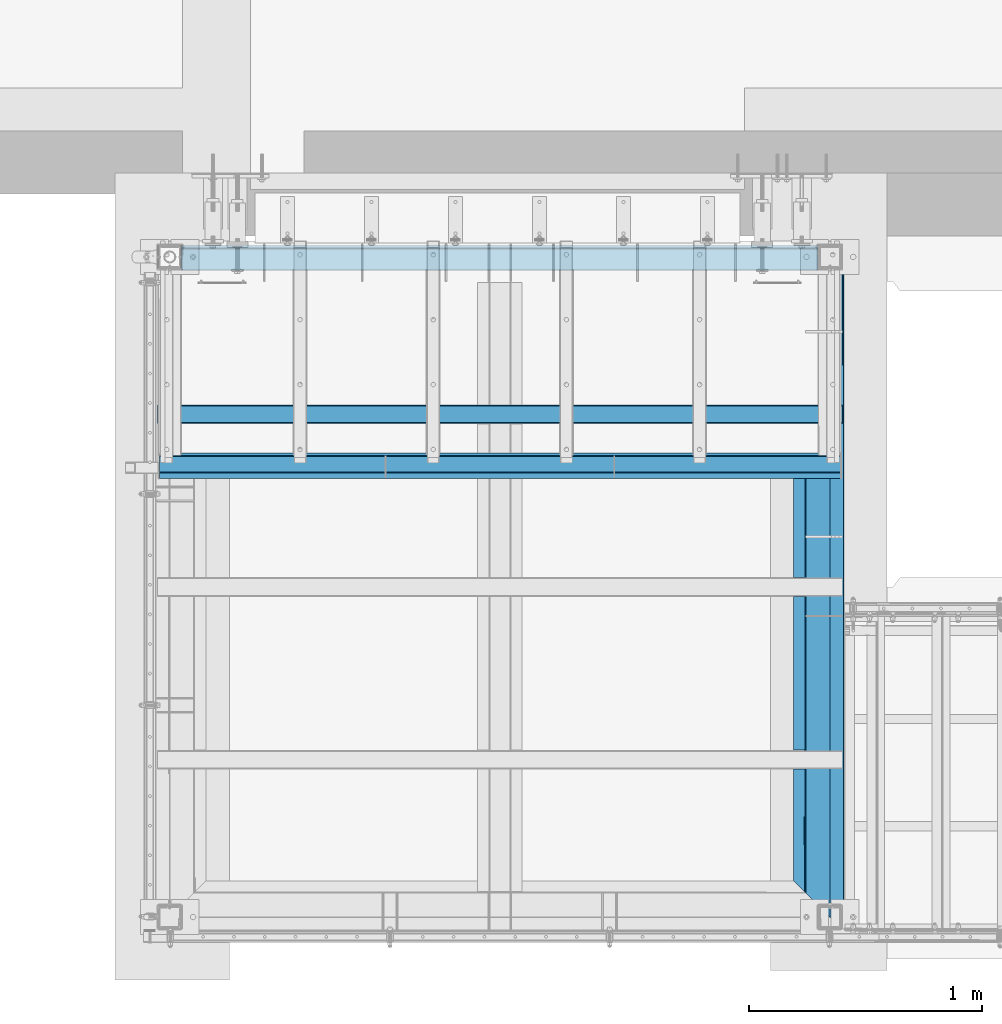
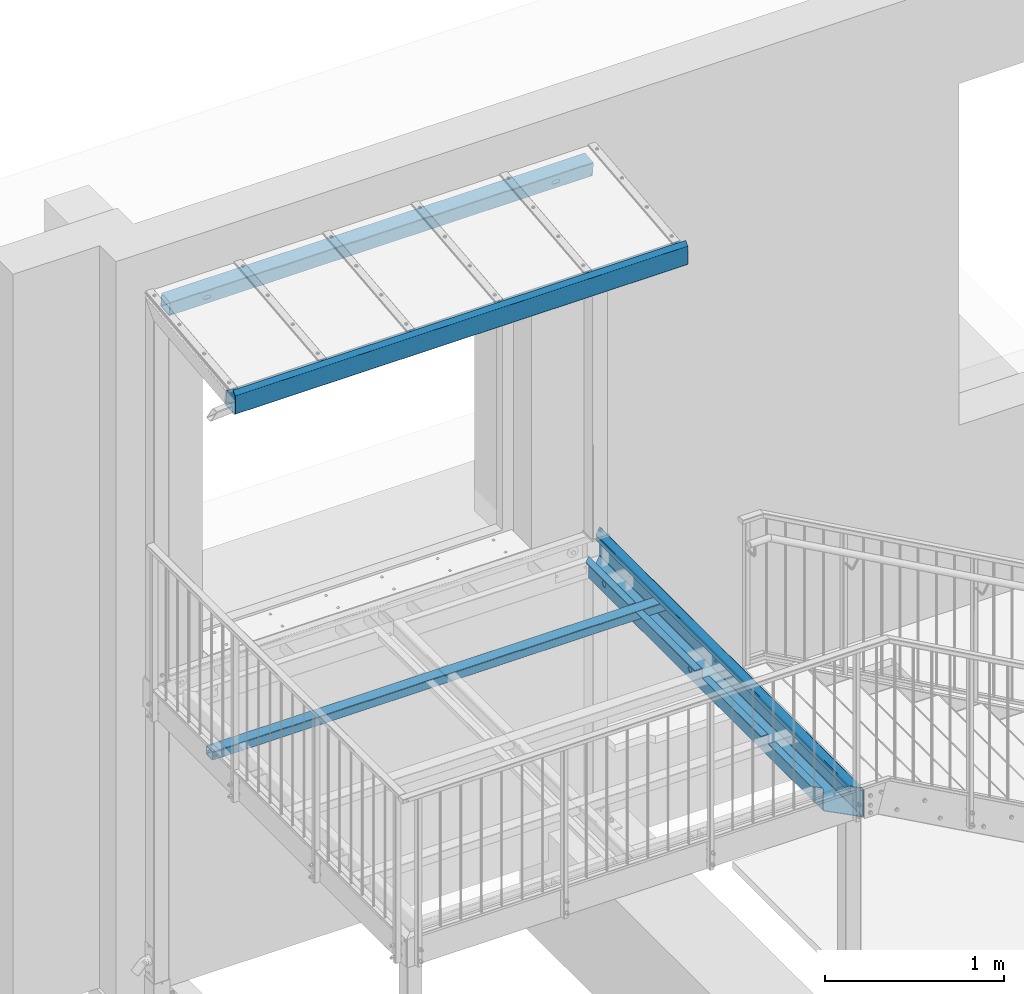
# One storey, part 11 of 116: 4 beams, 22 openings.
"""IFC2X3 building model written with IfcOpenShell, lengths in millimetres."""

from ifc_helpers import new_model, entity, si_unit, converted_unit, point, frame, frame_2d, origin, origin_with_axes, origin_2d, origin_2d_with_axis, place, context, project, spatial, polyline, circle_curve, line_curve, trimmed, segment, composite_curve, hollow_rectangle, circle, outline, extrude, clip, halfspace, material, element, save


model = new_model("IFC2X3")

# Units and contexts
model_context = context("Model", 3, precision=1e-09, world=origin_with_axes())
ifc_project = project(units=[si_unit("LENGTHUNIT", "METRE", prefix="MILLI"), si_unit("AREAUNIT", "SQUARE_METRE"), si_unit("VOLUMEUNIT", "CUBIC_METRE"), converted_unit("PLANEANGLEUNIT", "DEGREE", entity("IfcPlaneAngleMeasure", 0.01745329), si_unit("PLANEANGLEUNIT", "RADIAN"), dimensions=[0, 0, 0, 0, 0, 0, 0])], contexts=[model_context])

# Site, building, storey
site_placement = place(None, origin_with_axes())
site = spatial("IfcSite", under=ifc_project, at=site_placement, Name="Site", CompositionType="ELEMENT")
building_placement = place(site_placement, origin_with_axes())
building = spatial("IfcBuilding", under=site, at=building_placement, Name="Struktur 1", CompositionType="ELEMENT")
storey_placement = place(building_placement, origin_with_axes())
storey = spatial("IfcBuildingStorey", under=building, at=storey_placement, Name="Default Storey", CompositionType="ELEMENT", Elevation=0.0)

# Beam, openings
ifc_material_1 = material(Name="S235JR")
beam_1_placement = place(None, frame((58117.049134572, 11957.453781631, 2538.205773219), z_axis=(1.0, 0.0, 0.0), x_axis=(0.0, -0.994521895, -0.104528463)))
beam_1 = element("IfcBeam", 1, at=beam_1_placement, inside=storey, material=ifc_material_1, Name="-", ObjectType="-", context=model_context, shape_type="SweptSolid", body=[
    extrude(hollow_rectangle(XDim=100.0, YDim=100.0, WallThickness=4.0, InnerFilletRadius=4.0, OuterFilletRadius=8.0, at=origin_2d()), origin(), (0.0, 0.0, -1.0), 2730.0),
])
opening_1_placement = place(beam_1_placement, frame((45.5, 50.0, 0.0), z_axis=(1.0, 0.0, 0.0), x_axis=(0.0, 0.0, 1.0)))
element("IfcOpeningElement", 2, at=opening_1_placement, cuts=beam_1, ObjectType="Opening", context=model_context, shape_type="SweptSolid", body=[
    extrude(circle(Radius=6.001, at=frame_2d((-10.0, 15.0), x_axis=(1.0, 0.0))), origin(), (0.0, 0.0, 1.0), 5.0),
])
opening_2_placement = place(beam_1_placement, frame((-45.5, -50.0, 0.0), z_axis=(-1.0, 0.0, 0.0), x_axis=(0.0, 0.0, 1.0)))
element("IfcOpeningElement", 3, at=opening_2_placement, cuts=beam_1, ObjectType="Opening", context=model_context, shape_type="SweptSolid", body=[
    extrude(circle(Radius=6.001, at=frame_2d((-10.0, 15.0), x_axis=(1.0, 0.0))), origin(), (0.0, 0.0, 1.0), 5.0),
])
opening_3_placement = place(beam_1_placement, frame((45.5, 35.0, -2713.999), z_axis=(-1.0, 0.0, 0.0), x_axis=(0.0, -1.0, 0.0)))
element("IfcOpeningElement", 4, at=opening_3_placement, cuts=beam_1, ObjectType="Opening", context=model_context, shape_type="SweptSolid", body=[
    extrude(circle(Radius=6.001, at=frame_2d((0.0, -6.001), x_axis=(1.0, 0.0))), origin(), (0.0, 0.0, -1.0), 5.0),
])
opening_4_placement = place(beam_1_placement, frame((-45.5, -35.0, -2713.999), z_axis=(1.0, 0.0, 0.0), x_axis=(0.0, 1.0, 0.0)))
element("IfcOpeningElement", 5, at=opening_4_placement, cuts=beam_1, ObjectType="Opening", context=model_context, shape_type="SweptSolid", body=[
    extrude(circle(Radius=6.001, at=frame_2d((0.0, -6.001), x_axis=(1.0, 0.0))), origin(), (0.0, 0.0, -1.0), 5.0),
])
opening_5_placement = place(beam_1_placement, frame((-50.5, 0.0, -2490.0), z_axis=(1.0, 0.0, 0.0), x_axis=(0.0, 0.0, 1.0)))
element("IfcOpeningElement", 6, at=opening_5_placement, cuts=beam_1, ObjectType="Opening", context=model_context, shape_type="SweptSolid", body=[
    extrude(outline(composite_curve([segment(trimmed(line_curve((-12.5, -12.501), (1.0, 0.0), 25.0), [point((-12.5, -12.501))], [point((12.5, -12.501))], True, "CARTESIAN"), True, "CONTINUOUS"), segment(trimmed(circle_curve(frame_2d((12.5, 0.0), x_axis=(1.0, 0.0)), 12.501), [point((12.5, -12.501))], [point((12.5, 12.501))], True, "CARTESIAN"), True, "CONTINUOUS"), segment(trimmed(line_curve((12.5, 12.501), (-1.0, 0.0), 25.0), [point((12.5, 12.501))], [point((-12.5, 12.501))], True, "CARTESIAN"), True, "CONTINUOUS"), segment(trimmed(circle_curve(frame_2d((-12.5, 0.0), x_axis=(1.0, 0.0)), 12.501), [point((-12.5, 12.501))], [point((-12.5, -12.501))], True, "CARTESIAN"), True, "CONTINUOUS")], self_intersect=False)), origin(), (0.0, 0.0, 1.0), 5.0),
])
opening_6_placement = place(beam_1_placement, frame((45.5, 0.0, -2490.0), z_axis=(1.0, 0.0, 0.0), x_axis=(0.0, 0.0, 1.0)))
element("IfcOpeningElement", 7, at=opening_6_placement, cuts=beam_1, ObjectType="Opening", context=model_context, shape_type="SweptSolid", body=[
    extrude(outline(composite_curve([segment(trimmed(line_curve((-12.5, -12.501), (1.0, 0.0), 25.0), [point((-12.5, -12.501))], [point((12.5, -12.501))], True, "CARTESIAN"), True, "CONTINUOUS"), segment(trimmed(circle_curve(frame_2d((12.5, 0.0), x_axis=(1.0, 0.0)), 12.501), [point((12.5, -12.501))], [point((12.5, 12.501))], True, "CARTESIAN"), True, "CONTINUOUS"), segment(trimmed(line_curve((12.5, 12.501), (-1.0, 0.0), 25.0), [point((12.5, 12.501))], [point((-12.5, 12.501))], True, "CARTESIAN"), True, "CONTINUOUS"), segment(trimmed(circle_curve(frame_2d((-12.5, 0.0), x_axis=(1.0, 0.0)), 12.501), [point((-12.5, 12.501))], [point((-12.5, -12.501))], True, "CARTESIAN"), True, "CONTINUOUS")], self_intersect=False)), origin(), (0.0, 0.0, 1.0), 5.0),
])
opening_7_placement = place(beam_1_placement, frame((45.5, 12.501, -227.5), z_axis=(-1.0, 0.0, 0.0), x_axis=(0.0, 0.0, -1.0)))
element("IfcOpeningElement", 8, at=opening_7_placement, cuts=beam_1, ObjectType="Opening", context=model_context, shape_type="SweptSolid", body=[
    extrude(outline(composite_curve([segment(trimmed(line_curve((0.0, 0.0), (1.0, 0.0), 25.0), [point((0.0, 0.0))], [point((25.0, 0.0))], True, "CARTESIAN"), True, "CONTINUOUS"), segment(trimmed(circle_curve(frame_2d((25.0, 12.501), x_axis=(1.0, 0.0)), 12.501), [point((25.0, 0.0))], [point((25.0, 25.002))], True, "CARTESIAN"), True, "CONTINUOUS"), segment(trimmed(line_curve((25.0, 25.002), (-1.0, 0.0), 25.0), [point((25.0, 25.002))], [point((0.0, 25.002))], True, "CARTESIAN"), True, "CONTINUOUS"), segment(trimmed(circle_curve(frame_2d((0.0, 12.501), x_axis=(1.0, 0.0)), 12.501), [point((0.0, 25.002))], [point((0.0, 0.0))], True, "CARTESIAN"), True, "CONTINUOUS")], self_intersect=False)), origin(), (0.0, 0.0, -1.0), 5.0),
])
opening_8_placement = place(beam_1_placement, frame((-50.5, 12.501, -227.5), z_axis=(-1.0, 0.0, 0.0), x_axis=(0.0, 0.0, -1.0)))
element("IfcOpeningElement", 9, at=opening_8_placement, cuts=beam_1, ObjectType="Opening", context=model_context, shape_type="SweptSolid", body=[
    extrude(outline(composite_curve([segment(trimmed(line_curve((0.0, 0.0), (1.0, 0.0), 25.0), [point((0.0, 0.0))], [point((25.0, 0.0))], True, "CARTESIAN"), True, "CONTINUOUS"), segment(trimmed(circle_curve(frame_2d((25.0, 12.501), x_axis=(1.0, 0.0)), 12.501), [point((25.0, 0.0))], [point((25.0, 25.002))], True, "CARTESIAN"), True, "CONTINUOUS"), segment(trimmed(line_curve((25.0, 25.002), (-1.0, 0.0), 25.0), [point((25.0, 25.002))], [point((0.0, 25.002))], True, "CARTESIAN"), True, "CONTINUOUS"), segment(trimmed(circle_curve(frame_2d((0.0, 12.501), x_axis=(1.0, 0.0)), 12.501), [point((0.0, 25.002))], [point((0.0, 0.0))], True, "CARTESIAN"), True, "CONTINUOUS")], self_intersect=False)), origin(), (0.0, 0.0, -1.0), 5.0),
])

# Beam
beam_2_placement = place(None, frame((58212.049134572, 11067.858883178, 2467.582738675), z_axis=(1.0, 0.0, 0.0), x_axis=(0.0, 1.0, 0.0)))
element("IfcBeam", 10, at=beam_2_placement, inside=storey, material=ifc_material_1, Name="-", ObjectType="-", context=model_context, shape_type="SweptSolid", body=[
    extrude(outline(composite_curve([segment(trimmed(circle_curve(frame_2d((45.504487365, -68.374368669), x_axis=(-1.0, 0.0)), 4.000000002), [point((49.482574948, -67.956254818))], [point((45.504487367, -72.374368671))], False, "CARTESIAN"), True, "CONTINUOUS"), segment(trimmed(line_curve((45.504487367, -72.374368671), (-1.0, 0.0), 92.004487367), [point((45.504487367, -72.374368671))], [point((-46.5, -72.374368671))], True, "CARTESIAN"), True, "CONTINUOUS"), segment(trimmed(circle_curve(frame_2d((-46.499999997, -68.374368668), x_axis=(-1.0, 0.0)), 4.000000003), [point((-46.5, -72.374368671))], [point((-50.5, -68.374368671))], False, "CARTESIAN"), True, "CONTINUOUS"), segment(trimmed(line_curve((-50.5, -68.374368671), (0.0, 1.0), 117.272077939), [point((-50.5, -68.374368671))], [point((-50.5, 48.897709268))], True, "CARTESIAN"), True, "CONTINUOUS"), segment(trimmed(circle_curve(frame_2d((-46.499999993, 48.897709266), x_axis=(-1.0, 0.0)), 4.000000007), [point((-50.5, 48.897709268))], [point((-49.328427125, 51.726136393))], False, "CARTESIAN"), True, "CONTINUOUS"), segment(trimmed(line_curve((-49.328427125, 51.726136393), (0.707106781, 0.707106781), 31.272077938), [point((-49.328427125, 51.726136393))], [point((-27.215728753, 73.838834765))], True, "CARTESIAN"), True, "CONTINUOUS"), segment(trimmed(line_curve((-27.215728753, 73.838834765), (-0.707106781, 0.707106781), 4.999999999), [point((-27.215728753, 73.838834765))], [point((-30.751262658, 77.374368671))], True, "CARTESIAN"), True, "CONTINUOUS"), segment(trimmed(line_curve((-30.751262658, 77.374368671), (-0.707106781, -0.707106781), 31.272077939), [point((-30.751262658, 77.374368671))], [point((-52.863961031, 55.261670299))], True, "CARTESIAN"), True, "CONTINUOUS"), segment(trimmed(circle_curve(frame_2d((-46.499999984, 48.897709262), x_axis=(1.0, 0.0)), 9.000000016), [point((-52.863961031, 55.261670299))], [point((-55.5, 48.897709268))], True, "CARTESIAN"), True, "CONTINUOUS"), segment(trimmed(line_curve((-55.5, 48.897709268), (0.0, -1.0), 117.272077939), [point((-55.5, 48.897709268))], [point((-55.5, -68.374368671))], True, "CARTESIAN"), True, "CONTINUOUS"), segment(trimmed(circle_curve(frame_2d((-46.499999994, -68.374368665), x_axis=(1.0, 0.0)), 9.000000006), [point((-55.5, -68.374368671))], [point((-46.5, -77.374368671))], True, "CARTESIAN"), True, "CONTINUOUS"), segment(trimmed(line_curve((-46.5, -77.374368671), (1.0, 0.0), 92.004487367), [point((-46.5, -77.374368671))], [point((45.504487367, -77.374368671))], True, "CARTESIAN"), True, "CONTINUOUS"), segment(trimmed(circle_curve(frame_2d((45.504487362, -68.374368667), x_axis=(1.0, 0.0)), 9.000000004), [point((45.504487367, -77.374368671))], [point((54.455184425, -67.433612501))], True, "CARTESIAN"), True, "CONTINUOUS"), segment(trimmed(line_curve((54.455184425, -67.433612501), (-0.104528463, 0.994521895), 100.004487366), [point((54.455184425, -67.433612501))], [point((44.001869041, 32.02303982))], True, "CARTESIAN"), True, "CONTINUOUS"), segment(trimmed(line_curve((44.001869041, 32.02303982), (-0.994521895, -0.104528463), 5.0), [point((44.001869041, 32.02303982))], [point((39.029259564, 31.500397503))], True, "CARTESIAN"), True, "CONTINUOUS"), segment(trimmed(line_curve((39.029259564, 31.500397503), (0.104528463, -0.994521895), 100.004487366), [point((39.029259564, 31.500397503))], [point((49.482574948, -67.956254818))], True, "CARTESIAN"), True, "CONTINUOUS")], self_intersect=False)), origin(), (0.0, 0.0, -1.0), 2920.0),
])

# Beam, openings
beam_3_placement = place(None, frame((55283.549134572, 11287.358883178, -78.0), z_axis=(-1.0, 0.0, 0.0), x_axis=(0.0, 0.0, -1.0)))
beam_3 = element("IfcBeam", 11, at=beam_3_placement, inside=storey, material=ifc_material_1, Name="-", ObjectType="-", context=model_context, shape_type="SweptSolid", body=[
    extrude(hollow_rectangle(XDim=60.0, YDim=80.0, WallThickness=4.0, InnerFilletRadius=4.0, OuterFilletRadius=8.0, at=origin_2d()), origin(), (0.0, 0.0, -1.0), 2937.0),
])
opening_9_placement = place(beam_3_placement, frame((0.0, 35.5, 0.0), z_axis=(0.0, 1.0, 0.0), x_axis=(0.0, 0.0, -1.0)))
element("IfcOpeningElement", 12, at=opening_9_placement, cuts=beam_3, ObjectType="Opening", context=model_context, shape_type="SweptSolid", body=[
    extrude(circle(Radius=10.001, at=frame_2d((15.0, 0.0), x_axis=(1.0, 0.0))), origin(), (0.0, 0.0, 1.0), 5.0),
])
opening_10_placement = place(beam_3_placement, frame((0.0, -35.5, -4.999), z_axis=(0.0, 1.0, 0.0), x_axis=(-1.0, 0.0, 0.0)))
element("IfcOpeningElement", 13, at=opening_10_placement, cuts=beam_3, ObjectType="Opening", context=model_context, shape_type="SweptSolid", body=[
    extrude(circle(Radius=10.001, at=frame_2d((0.0, -10.001), x_axis=(1.0, 0.0))), origin(), (0.0, 0.0, -1.0), 5.0),
])
opening_11_placement = place(beam_3_placement, frame((0.0, -35.5, -2937.0), z_axis=(0.0, -1.0, 0.0), x_axis=(0.0, 0.0, 1.0)))
element("IfcOpeningElement", 14, at=opening_11_placement, cuts=beam_3, ObjectType="Opening", context=model_context, shape_type="SweptSolid", body=[
    extrude(circle(Radius=10.001, at=frame_2d((15.0, 0.0), x_axis=(1.0, 0.0))), origin(), (0.0, 0.0, 1.0), 5.0),
])
opening_12_placement = place(beam_3_placement, frame((0.0, 35.5, -2932.001), z_axis=(0.0, -1.0, 0.0), x_axis=(1.0, 0.0, 0.0)))
element("IfcOpeningElement", 15, at=opening_12_placement, cuts=beam_3, ObjectType="Opening", context=model_context, shape_type="SweptSolid", body=[
    extrude(circle(Radius=10.001, at=frame_2d((0.0, 10.001), x_axis=(1.0, 0.0))), origin(), (0.0, 0.0, -1.0), 5.0),
])

ifc_material_2 = material(Name="S355JR")
beam_4_placement = place(None, frame((58119.549134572, 12419.394884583, -105.0), z_axis=(0.0, 1.0, 0.0), x_axis=(-1.0, 0.0, 0.0)))
beam_4 = element("IfcBeam", 16, at=beam_4_placement, inside=storey, material=ifc_material_2, Name="-", ObjectType="-", context=model_context, shape_type="Clipping", body=[
    clip(clip(extrude(outline(composite_curve([segment(trimmed(line_curve((-47.5, 60.0), (0.0, 1.0), 31.0), [point((-47.5, 60.0))], [point((-47.5, 91.0))], True, "CARTESIAN"), True, "CONTINUOUS"), segment(trimmed(circle_curve(frame_2d((-56.500000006, 90.999999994), x_axis=(1.0, 0.0)), 9.000000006), [point((-47.5, 91.0))], [point((-56.5, 100.0))], True, "CARTESIAN"), True, "CONTINUOUS"), segment(trimmed(line_curve((-56.5, 100.0), (-1.0, 0.0), 42.0), [point((-56.5, 100.0))], [point((-98.5, 100.0))], True, "CARTESIAN"), True, "CONTINUOUS"), segment(trimmed(circle_curve(frame_2d((-98.499999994, 90.999999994), x_axis=(1.0, 0.0)), 9.000000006), [point((-98.5, 100.0))], [point((-107.5, 91.0))], True, "CARTESIAN"), True, "CONTINUOUS"), segment(trimmed(line_curve((-107.5, 91.0), (0.0, -1.0), 182.0), [point((-107.5, 91.0))], [point((-107.5, -91.0))], True, "CARTESIAN"), True, "CONTINUOUS"), segment(trimmed(circle_curve(frame_2d((-98.499999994, -90.999999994), x_axis=(1.0, 0.0)), 9.000000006), [point((-107.5, -91.0))], [point((-98.5, -100.0))], True, "CARTESIAN"), True, "CONTINUOUS"), segment(trimmed(line_curve((-98.5, -100.0), (1.0, 0.0), 152.0), [point((-98.5, -100.0))], [point((53.5, -100.0))], True, "CARTESIAN"), True, "CONTINUOUS"), segment(trimmed(circle_curve(frame_2d((53.499999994, -90.999999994), x_axis=(1.0, 0.0)), 9.000000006), [point((53.5, -100.0))], [point((62.5, -91.0))], True, "CARTESIAN"), True, "CONTINUOUS"), segment(trimmed(line_curve((62.5, -91.0), (0.0, 1.0), 139.0), [point((62.5, -91.0))], [point((62.5, 48.0))], True, "CARTESIAN"), True, "CONTINUOUS"), segment(trimmed(circle_curve(frame_2d((66.500000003, 47.999999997), x_axis=(-1.0, 0.0)), 4.000000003), [point((62.5, 48.0))], [point((66.5, 52.0))], False, "CARTESIAN"), True, "CONTINUOUS"), segment(trimmed(line_curve((66.5, 52.0), (1.0, 0.0), 41.0), [point((66.5, 52.0))], [point((107.5, 52.0))], True, "CARTESIAN"), True, "CONTINUOUS"), segment(trimmed(line_curve((107.5, 52.0), (0.0, 1.0), 5.0), [point((107.5, 52.0))], [point((107.5, 57.0))], True, "CARTESIAN"), True, "CONTINUOUS"), segment(trimmed(line_curve((107.5, 57.0), (-1.0, 0.0), 41.0), [point((107.5, 57.0))], [point((66.5, 57.0))], True, "CARTESIAN"), True, "CONTINUOUS"), segment(trimmed(circle_curve(frame_2d((66.500000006, 47.999999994), x_axis=(1.0, 0.0)), 9.000000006), [point((66.5, 57.0))], [point((57.5, 48.0))], True, "CARTESIAN"), True, "CONTINUOUS"), segment(trimmed(line_curve((57.5, 48.0), (0.0, -1.0), 139.0), [point((57.5, 48.0))], [point((57.5, -91.0))], True, "CARTESIAN"), True, "CONTINUOUS"), segment(trimmed(circle_curve(frame_2d((53.499999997, -90.999999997), x_axis=(-1.0, 0.0)), 4.000000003), [point((57.5, -91.0))], [point((53.5, -95.0))], False, "CARTESIAN"), True, "CONTINUOUS"), segment(trimmed(line_curve((53.5, -95.0), (-1.0, 0.0), 152.0), [point((53.5, -95.0))], [point((-98.5, -95.0))], True, "CARTESIAN"), True, "CONTINUOUS"), segment(trimmed(circle_curve(frame_2d((-98.499999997, -90.999999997), x_axis=(-1.0, 0.0)), 4.000000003), [point((-98.5, -95.0))], [point((-102.5, -91.0))], False, "CARTESIAN"), True, "CONTINUOUS"), segment(trimmed(line_curve((-102.5, -91.0), (0.0, 1.0), 182.0), [point((-102.5, -91.0))], [point((-102.5, 91.0))], True, "CARTESIAN"), True, "CONTINUOUS"), segment(trimmed(circle_curve(frame_2d((-98.499999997, 90.999999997), x_axis=(-1.0, 0.0)), 4.000000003), [point((-102.5, 91.0))], [point((-98.5, 95.0))], False, "CARTESIAN"), True, "CONTINUOUS"), segment(trimmed(line_curve((-98.5, 95.0), (1.0, 0.0), 42.0), [point((-98.5, 95.0))], [point((-56.5, 95.0))], True, "CARTESIAN"), True, "CONTINUOUS"), segment(trimmed(circle_curve(frame_2d((-56.500000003, 90.999999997), x_axis=(-1.0, 0.0)), 4.000000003), [point((-56.5, 95.0))], [point((-52.5, 91.0))], False, "CARTESIAN"), True, "CONTINUOUS"), segment(trimmed(line_curve((-52.5, 91.0), (0.0, -1.0), 31.0), [point((-52.5, 91.0))], [point((-52.5, 60.0))], True, "CARTESIAN"), True, "CONTINUOUS"), segment(trimmed(line_curve((-52.5, 60.0), (1.0, 0.0), 5.0), [point((-52.5, 60.0))], [point((-47.5, 60.0))], True, "CARTESIAN"), True, "CONTINUOUS")], self_intersect=False)), origin(), (0.0, 0.0, -1.0), 3744.072002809), halfspace(frame((35017.203301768, 105.0, -35521.740717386), z_axis=(-0.707106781, 0.0, -0.707106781), x_axis=(-0.707106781, 0.0, 0.707106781)), True)), halfspace(frame((24469.84441859, 105.0, 21230.309831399), z_axis=(-0.707106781, 0.0, 0.707106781), x_axis=(0.707106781, 0.0, 0.707106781)), True)),
])
opening_13_placement = place(beam_4_placement, frame((-123.084269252, -200.1, -402.035317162), z_axis=(0.0, -1.0, 0.0), x_axis=(1.0, 0.0, 0.0)))
element("IfcOpeningElement", 17, at=opening_13_placement, cuts=beam_4, ObjectType="Opening", context=model_context, shape_type="SweptSolid", body=[
    extrude(outline(polyline([(0.0, 0.0), (20.586683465, 0.0), (20.586683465, 16.715321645), (0.0, 16.715321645), (0.0, 0.0)])), origin(), (0.0, 0.0, -1.0), 400.2),
])
opening_14_placement = place(beam_4_placement, frame((-112.790927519, -200.1, -3350.394346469), z_axis=(0.0, 1.0, 0.0), x_axis=(1.0, 0.0, 0.0)))
element("IfcOpeningElement", 18, at=opening_14_placement, cuts=beam_4, ObjectType="Opening", context=model_context, shape_type="SweptSolid", body=[
    extrude(outline(polyline([(-10.293341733, -8.357660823), (10.293341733, -8.357660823), (10.293341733, 8.357660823), (-10.293341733, 8.357660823), (-10.293341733, -8.357660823)])), origin(), (0.0, 0.0, 1.0), 400.2),
])
opening_15_placement = place(beam_4_placement, frame((207.6, 0.999, -1831.035001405), z_axis=(1.0, 0.0, 0.0), x_axis=(0.0, -0.707106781, -0.707106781)))
element("IfcOpeningElement", 19, at=opening_15_placement, cuts=beam_4, ObjectType="Opening", context=model_context, shape_type="SweptSolid", body=[
    extrude(outline(composite_curve([segment(trimmed(circle_curve(frame_2d((3.535533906, 3.535533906), x_axis=(1.0, 0.0)), 5.0), [point((0.0, 0.0))], [point((7.071067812, 0.0))], True, "CARTESIAN"), True, "CONTINUOUS"), segment(trimmed(line_curve((7.071067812, 0.0), (0.707106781, 0.707106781), 72.002), [point((7.071067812, 0.0))], [point((57.984170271, 50.913102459))], True, "CARTESIAN"), True, "CONTINUOUS"), segment(trimmed(circle_curve(frame_2d((54.448636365, 54.448636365), x_axis=(1.0, 0.0)), 5.0), [point((57.984170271, 50.913102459))], [point((57.984170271, 57.984170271))], True, "CARTESIAN"), True, "CONTINUOUS"), segment(trimmed(line_curve((57.984170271, 57.984170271), (-0.707106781, 0.707106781), 64.909628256), [point((57.984170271, 57.984170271))], [point((12.086131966, 103.882208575))], True, "CARTESIAN"), True, "CONTINUOUS"), segment(trimmed(circle_curve(frame_2d((8.55059806, 100.346674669), x_axis=(1.0, 0.0)), 5.0), [point((12.086131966, 103.882208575))], [point((5.015064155, 103.882208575))], True, "CARTESIAN"), True, "CONTINUOUS"), segment(trimmed(line_curve((5.015064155, 103.882208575), (-0.707106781, -0.707106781), 72.002), [point((5.015064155, 103.882208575))], [point((-45.898038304, 52.969106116))], True, "CARTESIAN"), True, "CONTINUOUS"), segment(trimmed(circle_curve(frame_2d((-42.362504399, 49.43357221), x_axis=(1.0, 0.0)), 5.0), [point((-45.898038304, 52.969106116))], [point((-45.898038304, 45.898038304))], True, "CARTESIAN"), True, "CONTINUOUS"), segment(trimmed(line_curve((-45.898038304, 45.898038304), (0.707106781, -0.707106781), 64.909628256), [point((-45.898038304, 45.898038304))], [point((0.0, 0.0))], True, "CARTESIAN"), True, "CONTINUOUS")], self_intersect=False)), origin(), (0.0, 0.0, -1.0), 215.1),
])
opening_16_placement = place(beam_4_placement, frame((-102.0, 80.0, -3317.035685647), z_axis=(1.0, 0.0, 0.0), x_axis=(0.0, 1.0, 0.0)))
element("IfcOpeningElement", 20, at=opening_16_placement, cuts=beam_4, ObjectType="Opening", context=model_context, shape_type="SweptSolid", body=[
    extrude(circle(Radius=10.001, at=frame_2d((0.0, -10.001), x_axis=(1.0, 0.0))), origin(), (0.0, 0.0, -1.0), 6.0),
])
opening_17_placement = place(beam_4_placement, frame((-102.0, 100.0, -1217.036001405), z_axis=(-1.0, 0.0, 0.0), x_axis=(0.0, 0.0, 1.0)))
element("IfcOpeningElement", 21, at=opening_17_placement, cuts=beam_4, ObjectType="Opening", context=model_context, shape_type="SweptSolid", body=[
    extrude(circle(Radius=8.001, at=frame_2d((480.0, -133.0), x_axis=(1.0, 0.0))), origin(), (0.0, 0.0, 1.0), 6.0),
])
opening_18_placement = place(beam_4_placement, frame((-102.0, 100.0, -1217.036001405), z_axis=(-1.0, 0.0, 0.0), x_axis=(0.0, 0.0, 1.0)))
element("IfcOpeningElement", 22, at=opening_18_placement, cuts=beam_4, ObjectType="Opening", context=model_context, shape_type="SweptSolid", body=[
    extrude(circle(Radius=8.001, at=frame_2d((-480.0, -133.0), x_axis=(1.0, 0.0))), origin(), (0.0, 0.0, 1.0), 6.0),
])
opening_19_placement = place(beam_4_placement, frame((57.0, -33.0, -737.036001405), z_axis=(1.0, 0.0, 0.0), x_axis=(0.0, 0.0, -1.0)))
element("IfcOpeningElement", 23, at=opening_19_placement, cuts=beam_4, ObjectType="Opening", context=model_context, shape_type="SweptSolid", body=[
    extrude(circle(Radius=19.001, at=frame_2d((960.0, 0.0), x_axis=(1.0, 0.0))), origin(), (0.0, 0.0, 1.0), 6.0),
])
opening_20_placement = place(beam_4_placement, frame((57.0, -33.0, -737.036001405), z_axis=(1.0, 0.0, 0.0), x_axis=(0.0, 0.0, -1.0)))
element("IfcOpeningElement", 24, at=opening_20_placement, cuts=beam_4, ObjectType="Opening", context=model_context, shape_type="SweptSolid", body=[
    extrude(circle(Radius=19.001, at=origin_2d_with_axis()), origin(), (0.0, 0.0, 1.0), 6.0),
])
opening_21_placement = place(beam_4_placement, frame((207.6, 0.999, -1091.035001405), z_axis=(1.0, 0.0, 0.0), x_axis=(0.0, -0.707106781, -0.707106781)))
element("IfcOpeningElement", 25, at=opening_21_placement, cuts=beam_4, ObjectType="Opening", context=model_context, shape_type="SweptSolid", body=[
    extrude(outline(composite_curve([segment(trimmed(circle_curve(frame_2d((3.535533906, 3.535533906), x_axis=(1.0, 0.0)), 5.0), [point((0.0, 0.0))], [point((7.071067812, 0.0))], True, "CARTESIAN"), True, "CONTINUOUS"), segment(trimmed(line_curve((7.071067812, 0.0), (0.707106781, 0.707106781), 72.002), [point((7.071067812, 0.0))], [point((57.984170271, 50.913102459))], True, "CARTESIAN"), True, "CONTINUOUS"), segment(trimmed(circle_curve(frame_2d((54.448636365, 54.448636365), x_axis=(1.0, 0.0)), 5.0), [point((57.984170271, 50.913102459))], [point((57.984170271, 57.984170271))], True, "CARTESIAN"), True, "CONTINUOUS"), segment(trimmed(line_curve((57.984170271, 57.984170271), (-0.707106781, 0.707106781), 64.909628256), [point((57.984170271, 57.984170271))], [point((12.086131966, 103.882208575))], True, "CARTESIAN"), True, "CONTINUOUS"), segment(trimmed(circle_curve(frame_2d((8.55059806, 100.346674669), x_axis=(1.0, 0.0)), 5.0), [point((12.086131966, 103.882208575))], [point((5.015064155, 103.882208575))], True, "CARTESIAN"), True, "CONTINUOUS"), segment(trimmed(line_curve((5.015064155, 103.882208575), (-0.707106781, -0.707106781), 72.002), [point((5.015064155, 103.882208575))], [point((-45.898038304, 52.969106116))], True, "CARTESIAN"), True, "CONTINUOUS"), segment(trimmed(circle_curve(frame_2d((-42.362504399, 49.43357221), x_axis=(1.0, 0.0)), 5.0), [point((-45.898038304, 52.969106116))], [point((-45.898038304, 45.898038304))], True, "CARTESIAN"), True, "CONTINUOUS"), segment(trimmed(line_curve((-45.898038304, 45.898038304), (0.707106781, -0.707106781), 64.909628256), [point((-45.898038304, 45.898038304))], [point((0.0, 0.0))], True, "CARTESIAN"), True, "CONTINUOUS")], self_intersect=False)), origin(), (0.0, 0.0, -1.0), 215.1),
])
opening_22_placement = place(beam_4_placement, frame((207.6, 0.999, -2571.035001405), z_axis=(1.0, 0.0, 0.0), x_axis=(0.0, -0.707106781, -0.707106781)))
element("IfcOpeningElement", 26, at=opening_22_placement, cuts=beam_4, ObjectType="Opening", context=model_context, shape_type="SweptSolid", body=[
    extrude(outline(composite_curve([segment(trimmed(circle_curve(frame_2d((3.535533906, 3.535533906), x_axis=(1.0, 0.0)), 5.0), [point((0.0, 0.0))], [point((7.071067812, 0.0))], True, "CARTESIAN"), True, "CONTINUOUS"), segment(trimmed(line_curve((7.071067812, 0.0), (0.707106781, 0.707106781), 72.002), [point((7.071067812, 0.0))], [point((57.984170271, 50.913102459))], True, "CARTESIAN"), True, "CONTINUOUS"), segment(trimmed(circle_curve(frame_2d((54.448636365, 54.448636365), x_axis=(1.0, 0.0)), 5.0), [point((57.984170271, 50.913102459))], [point((57.984170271, 57.984170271))], True, "CARTESIAN"), True, "CONTINUOUS"), segment(trimmed(line_curve((57.984170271, 57.984170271), (-0.707106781, 0.707106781), 64.909628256), [point((57.984170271, 57.984170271))], [point((12.086131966, 103.882208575))], True, "CARTESIAN"), True, "CONTINUOUS"), segment(trimmed(circle_curve(frame_2d((8.55059806, 100.346674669), x_axis=(1.0, 0.0)), 5.0), [point((12.086131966, 103.882208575))], [point((5.015064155, 103.882208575))], True, "CARTESIAN"), True, "CONTINUOUS"), segment(trimmed(line_curve((5.015064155, 103.882208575), (-0.707106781, -0.707106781), 72.002), [point((5.015064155, 103.882208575))], [point((-45.898038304, 52.969106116))], True, "CARTESIAN"), True, "CONTINUOUS"), segment(trimmed(circle_curve(frame_2d((-42.362504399, 49.43357221), x_axis=(1.0, 0.0)), 5.0), [point((-45.898038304, 52.969106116))], [point((-45.898038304, 45.898038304))], True, "CARTESIAN"), True, "CONTINUOUS"), segment(trimmed(line_curve((-45.898038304, 45.898038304), (0.707106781, -0.707106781), 64.909628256), [point((-45.898038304, 45.898038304))], [point((0.0, 0.0))], True, "CARTESIAN"), True, "CONTINUOUS")], self_intersect=False)), origin(), (0.0, 0.0, -1.0), 215.1),
])

save(model, "model.ifc")
